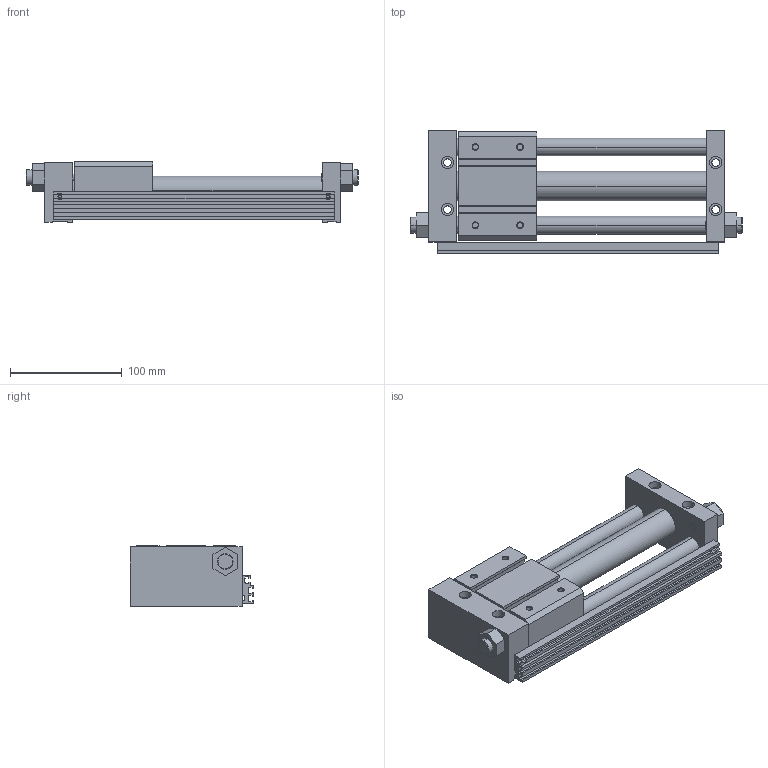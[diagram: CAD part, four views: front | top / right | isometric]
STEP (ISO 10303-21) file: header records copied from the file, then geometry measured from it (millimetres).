
FILE_DESCRIPTION((''),'2;1');
FILE_NAME('C:\Documents and Settings\Administrator\桌面\GYS\GYS25\GYSR25X150.stp','2012-03-06T11:01:06',('Administrator'),(''),'Autodesk Inventor 8','Autodesk Inventor 8','');
FILE_SCHEMA(('AUTOMOTIVE_DESIGN { 1 0 10303 214 1 1 1 1 }'));
Length unit declared in the file: millimetre
Products named in the file (3): GYSR25X150; GYS25X150; GYS25160X150
Assembly tree (2 placements, depth 2):
  GYSR25X150
    GYS25X150
    GYS25160X150
Bounding box: 297 x 110.5 x 54 mm (x, y, z)
Volume: 724789.7 mm3; surface area: 131303.5 mm2
Topology: 2 solids, 2 shells, 276 faces, 718 edges, 468 vertices
Faces by surface type: plane 154, cylinder 80, cone 32, bspline 10
Entity records: 8662 total; most frequent: CARTESIAN_POINT 1609, DIRECTION 1476, ORIENTED_EDGE 1436, EDGE_CURVE 718, VECTOR 502, LINE 502, AXIS2_PLACEMENT_3D 487, VERTEX_POINT 468
